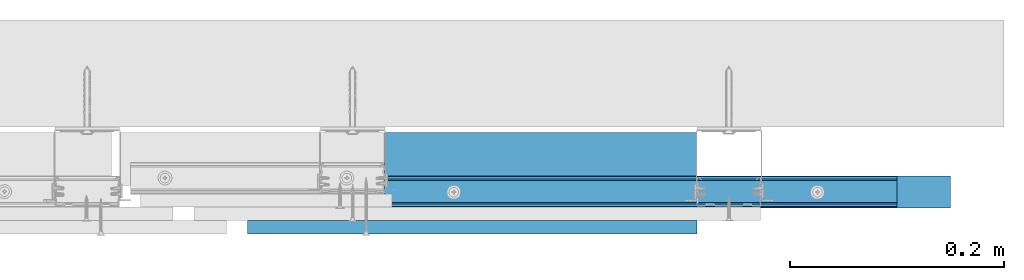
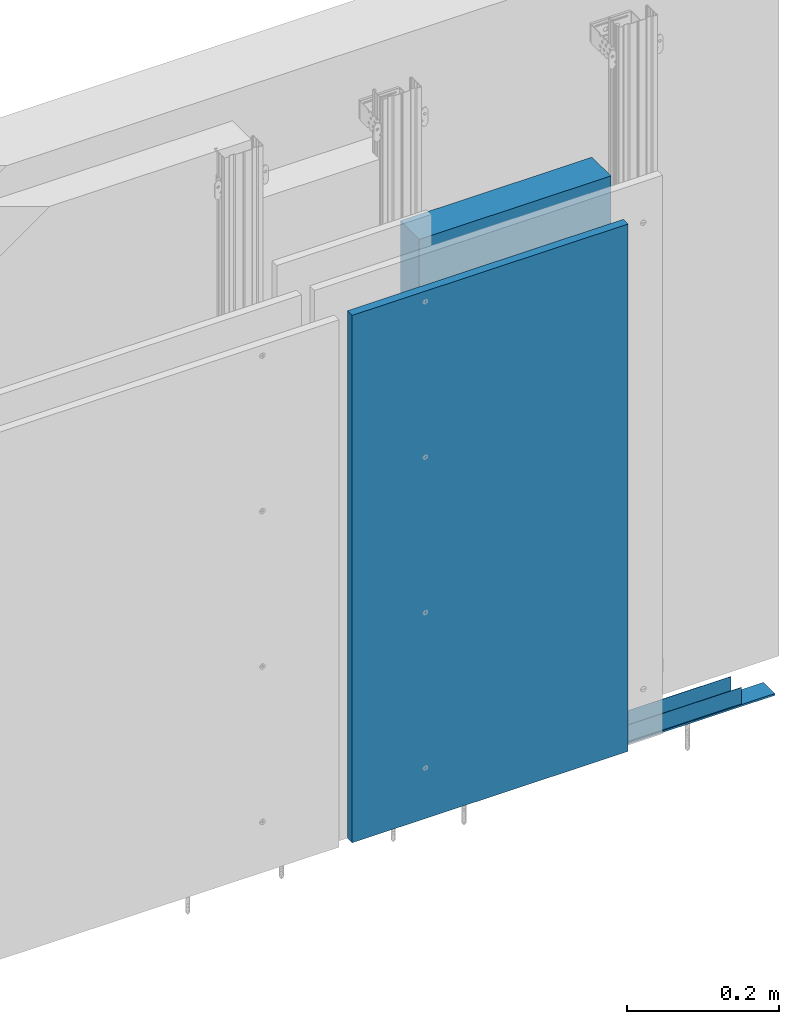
# One storey, part 5 of 48: 4 walls.
"""IFC2X3 building model written with IfcOpenShell, lengths in millimetres."""

from ifc_helpers import new_model, entity, si_unit, converted_unit, direction, frame, origin, origin_with_axes, place, context, project, spatial, faceted_brep, element, save


model = new_model("IFC2X3")

# Units and contexts
model_context = context("Model", 3, precision=1e-05, world=origin(), true_north=direction((0.0, 1.0, 0.0)))
ifc_project = project(units=[si_unit("LENGTHUNIT", "METRE", prefix="MILLI"), si_unit("AREAUNIT", "SQUARE_METRE"), si_unit("VOLUMEUNIT", "CUBIC_METRE"), converted_unit("PLANEANGLEUNIT", "DEGREE", entity("IfcPlaneAngleMeasure", 0.01745), si_unit("PLANEANGLEUNIT", "RADIAN"), dimensions=[0, 0, 0, 0, 0, 0, 0]), si_unit("SOLIDANGLEUNIT", "STERADIAN"), si_unit("MASSUNIT", "GRAM"), si_unit("TIMEUNIT", "SECOND"), si_unit("THERMODYNAMICTEMPERATUREUNIT", "DEGREE_CELSIUS"), si_unit("LUMINOUSINTENSITYUNIT", "LUMEN")], contexts=[model_context])

# Site, building, storey
site_placement = place(None, origin_with_axes())
site = spatial("IfcSite", under=ifc_project, at=site_placement, Name="Default Site", CompositionType="ELEMENT")
building_placement = place(site_placement, origin_with_axes())
building = spatial("IfcBuilding", under=site, at=building_placement, Name="Default Building", CompositionType="ELEMENT")
storey_placement = place(building_placement, origin_with_axes())
storey = spatial("IfcBuildingStorey", under=building, at=storey_placement, Name="Default Building Storey", CompositionType="ELEMENT", Elevation=0.0)

# Walls
wall_1_placement = place(storey_placement, frame((3245.742988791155, 5345.424146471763, 8.382447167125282), z_axis=(0.0, 0.0, 1.0), x_axis=(-1.0, 4.718447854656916e-16, 0.0)))
element("IfcWall", 1, at=wall_1_placement, inside=storey, Name="Wełna mineralna szklana lub skalna ISOVER", context=model_context, shape_type="Brep", body=[
    faceted_brep([(-210.1090366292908, 3378.123774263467, 900.0079488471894), (81.71848866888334, 3378.123774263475, 900.0079488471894), (81.71848866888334, 3378.123774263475, 2.350000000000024), (-210.1090366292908, 3378.123774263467, 2.350000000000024), (-210.1090366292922, 3328.283223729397, 900.0079488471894), (-210.1090366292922, 3328.283223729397, 2.350000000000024), (81.71848866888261, 3328.2832237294, 2.350000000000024), (81.71848866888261, 3328.2832237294, 900.0079488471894)], [[[0, 1, 2, 3]], [[4, 0, 3, 5]], [[2, 6, 5, 3]], [[4, 7, 1, 0]], [[5, 6, 7, 4]], [[1, 7, 6, 2]]]),
])
wall_2_placement = place(storey_placement, frame((3813.221819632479, 1934.666056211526, 1059.999999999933), z_axis=(0.0, 0.0, 1.0), x_axis=(-1.0, 6.389333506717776e-13, 0.0)))
element("IfcWall", 2, at=wall_2_placement, inside=storey, Name="Płyta gipsowo-kartonowa RIGIPS PRO (4PRO™)", context=model_context, shape_type="Brep", body=[
    faceted_brep([(357.3630227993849, -4.104066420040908e-10, -201.6096039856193), (357.3630227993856, 12.49999999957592, -201.6096039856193), (357.3630227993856, 12.4999999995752, -1050.001581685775), (357.3630227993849, -4.111285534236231e-10, -1050.001581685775), (777.2895112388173, 12.49999999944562, -201.6096039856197), (777.2895112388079, -5.26634380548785e-10, -201.6096039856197), (777.289511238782, -5.24107690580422e-10, -1050.001581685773), (777.2895112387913, 12.49999999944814, -1050.001581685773)], [[[0, 1, 2, 3]], [[4, 5, 6, 7]], [[4, 1, 0, 5]], [[7, 2, 1, 4]], [[0, 3, 6, 5]], [[6, 3, 2, 7]]]),
])
wall_3_placement = place(storey_placement, frame((6723.391136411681, 3445.732088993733, -108.5920209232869), z_axis=(-6.754789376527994e-14, -6.858158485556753e-13, 1.0), x_axis=(-1.0, -1.816065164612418e-15, -8.596431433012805e-14)))
element("IfcWall", 3, at=wall_3_placement, inside=storey, Name="Profil RIGIPS UD30 ULTRASTIL®", context=model_context, shape_type="Brep", body=[
    faceted_brep([(3559.3666362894, 1469.9160327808, 140.9750000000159), (3559.3666362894, 1469.3660327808, 140.9750000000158), (3559.366636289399, 1469.3660327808, 114.775000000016), (3559.366636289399, 1469.375882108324, 114.6498524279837), (3559.366636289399, 1469.405187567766, 114.5277864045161), (3559.366636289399, 1469.453227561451, 114.4118076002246), (3559.366636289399, 1469.5188191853, 114.3047717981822), (3559.366636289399, 1469.600347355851, 114.2093145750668), (3559.366636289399, 1469.695804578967, 114.1277864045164), (3559.366636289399, 1469.80284038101, 114.0621947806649), (3559.366636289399, 1469.918819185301, 114.0141547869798), (3559.366636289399, 1470.04088520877, 113.9848493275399), (3559.366636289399, 1470.166032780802, 113.9750000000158), (3559.366636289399, 1472.016032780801, 113.9750000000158), (3559.366636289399, 1472.163550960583, 113.9887186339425), (3559.366636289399, 1472.3060097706, 114.0294040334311), (3559.366636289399, 1472.438523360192, 114.0956608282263), (3559.366636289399, 1472.55654696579, 114.1852166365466), (3559.366636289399, 1472.6560327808, 114.2950000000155), (3559.3666362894, 1473.676032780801, 115.6550000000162), (3559.366636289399, 1473.77551859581, 115.7647833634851), (3559.366636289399, 1473.893542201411, 115.8543391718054), (3559.366636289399, 1474.026055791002, 115.9205959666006), (3559.366636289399, 1474.16851460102, 115.9612813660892), (3559.366636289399, 1474.316032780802, 115.9750000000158), (3559.3666362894, 1493.616032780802, 115.9750000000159), (3559.3666362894, 1493.763550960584, 115.9612813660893), (3559.3666362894, 1493.906009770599, 115.9205959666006), (3559.3666362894, 1494.038523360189, 115.8543391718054), (3559.3666362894, 1494.156546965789, 115.7647833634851), (3559.3666362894, 1494.256032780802, 115.6550000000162), (3559.366636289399, 1495.2760327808, 114.2950000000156), (3559.366636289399, 1495.375518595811, 114.1852166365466), (3559.366636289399, 1495.493542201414, 114.0956608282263), (3559.366636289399, 1495.626055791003, 114.0294040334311), (3559.366636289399, 1495.76851460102, 113.9887186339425), (3559.366636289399, 1495.916032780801, 113.9750000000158), (3559.366636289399, 1497.766032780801, 113.9750000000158), (3559.366636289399, 1497.891180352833, 113.9848493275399), (3559.366636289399, 1498.013246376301, 114.0141547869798), (3559.366636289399, 1498.129225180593, 114.0621947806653), (3559.366636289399, 1498.236260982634, 114.127786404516), (3559.366636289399, 1498.331718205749, 114.2093145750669), (3559.366636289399, 1498.4132463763, 114.3047717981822), (3559.366636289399, 1498.478838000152, 114.4118076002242), (3559.366636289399, 1498.526877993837, 114.5277864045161), (3559.366636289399, 1498.556183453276, 114.6498524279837), (3559.366636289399, 1498.5660327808, 114.775000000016), (3559.366636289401, 1498.5660327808, 140.9750000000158), (3559.366636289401, 1498.0160327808, 140.9750000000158), (3559.366636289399, 1498.0160327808, 114.775000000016), (3559.366636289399, 1498.012954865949, 114.7358913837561), (3559.366636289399, 1498.003796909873, 114.6977457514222), (3559.366636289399, 1497.988784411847, 114.661502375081), (3559.366636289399, 1497.968287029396, 114.6280536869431), (3559.366636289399, 1497.942809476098, 114.5982233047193), (3559.366636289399, 1497.912979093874, 114.5727457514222), (3559.366636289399, 1497.879530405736, 114.5522483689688), (3559.366636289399, 1497.843287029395, 114.5372358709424), (3559.366636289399, 1497.805141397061, 114.528077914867), (3559.366636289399, 1497.766032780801, 114.525000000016), (3559.366636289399, 1495.916032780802, 114.525000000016), (3559.366636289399, 1495.86993334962, 114.5292870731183), (3559.366636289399, 1495.825414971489, 114.5420012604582), (3559.366636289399, 1495.784004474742, 114.5627065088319), (3559.366636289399, 1495.747122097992, 114.5906926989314), (3559.366636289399, 1495.716032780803, 114.6250000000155), (3559.3666362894, 1494.696032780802, 115.9850000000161), (3559.3666362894, 1494.528150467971, 116.1702594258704), (3559.3666362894, 1494.32898563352, 116.3213848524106), (3559.3666362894, 1494.105368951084, 116.4331931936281), (3559.3666362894, 1493.864969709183, 116.5018498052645), (3559.3666362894, 1493.616032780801, 116.525000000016), (3559.366636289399, 1474.316032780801, 116.525000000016), (3559.366636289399, 1474.067095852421, 116.5018498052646), (3559.366636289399, 1473.826696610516, 116.4331931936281), (3559.366636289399, 1473.603079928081, 116.3213848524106), (3559.366636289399, 1473.403915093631, 116.1702594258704), (3559.366636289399, 1473.236032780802, 115.9850000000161), (3559.366636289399, 1472.216032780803, 114.6250000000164), (3559.366636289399, 1472.184943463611, 114.5906926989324), (3559.366636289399, 1472.14806108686, 114.562706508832), (3559.366636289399, 1472.106650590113, 114.5420012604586), (3559.366636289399, 1472.062132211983, 114.5292870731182), (3559.366636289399, 1472.016032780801, 114.525000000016), (3559.366636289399, 1470.166032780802, 114.525000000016), (3559.366636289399, 1470.126924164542, 114.528077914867), (3559.366636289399, 1470.088778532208, 114.5372358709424), (3559.366636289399, 1470.052535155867, 114.5522483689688), (3559.366636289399, 1470.019086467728, 114.5727457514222), (3559.366636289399, 1469.989256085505, 114.5982233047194), (3559.366636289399, 1469.963778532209, 114.628053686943), (3559.366636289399, 1469.943281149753, 114.661502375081), (3559.366636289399, 1469.928268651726, 114.6977457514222), (3559.366636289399, 1469.919110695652, 114.7358913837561), (3559.366636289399, 1469.9160327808, 114.775000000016), (3080.350518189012, 1469.366032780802, 114.7750000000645), (3080.350518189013, 1469.366032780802, 140.9750000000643), (3080.350518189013, 1469.916032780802, 140.9750000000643), (3080.350518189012, 1469.916032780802, 114.7750000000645), (3080.350518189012, 1469.919110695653, 114.7358913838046), (3080.350518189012, 1469.928268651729, 114.6977457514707), (3080.350518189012, 1469.943281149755, 114.6615023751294), (3080.350518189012, 1469.963778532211, 114.6280536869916), (3080.350518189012, 1469.989256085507, 114.5982233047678), (3080.350518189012, 1470.019086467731, 114.5727457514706), (3080.350518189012, 1470.052535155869, 114.5522483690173), (3080.350518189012, 1470.08877853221, 114.5372358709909), (3080.350518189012, 1470.126924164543, 114.5280779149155), (3080.350518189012, 1470.166032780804, 114.5250000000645), (3080.350518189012, 1472.016032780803, 114.5250000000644), (3080.350518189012, 1472.062132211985, 114.5292870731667), (3080.350518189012, 1472.106650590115, 114.5420012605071), (3080.350518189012, 1472.148061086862, 114.5627065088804), (3080.350518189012, 1472.184943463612, 114.5906926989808), (3080.350518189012, 1472.216032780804, 114.6250000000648), (3080.350518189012, 1473.236032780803, 115.9850000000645), (3080.350518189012, 1473.403915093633, 116.1702594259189), (3080.350518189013, 1473.603079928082, 116.321384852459), (3080.350518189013, 1473.826696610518, 116.4331931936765), (3080.350518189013, 1474.067095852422, 116.501849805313), (3080.350518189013, 1474.316032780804, 116.5250000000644), (3080.350518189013, 1493.616032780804, 116.5250000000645), (3080.350518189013, 1493.864969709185, 116.501849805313), (3080.350518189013, 1494.105368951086, 116.4331931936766), (3080.350518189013, 1494.328985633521, 116.321384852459), (3080.350518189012, 1494.528150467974, 116.1702594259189), (3080.350518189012, 1494.696032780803, 115.9850000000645), (3080.350518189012, 1495.716032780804, 114.625000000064), (3080.350518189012, 1495.747122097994, 114.5906926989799), (3080.350518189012, 1495.784004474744, 114.5627065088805), (3080.350518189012, 1495.825414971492, 114.5420012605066), (3080.350518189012, 1495.869933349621, 114.5292870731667), (3080.350518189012, 1495.916032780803, 114.5250000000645), (3080.350518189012, 1497.766032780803, 114.5250000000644), (3080.350518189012, 1497.805141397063, 114.5280779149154), (3080.350518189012, 1497.843287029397, 114.5372358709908), (3080.350518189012, 1497.879530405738, 114.5522483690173), (3080.350518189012, 1497.912979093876, 114.5727457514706), (3080.350518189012, 1497.9428094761, 114.5982233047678), (3080.350518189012, 1497.968287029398, 114.6280536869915), (3080.350518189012, 1497.988784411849, 114.6615023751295), (3080.350518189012, 1498.003796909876, 114.6977457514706), (3080.350518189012, 1498.01295486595, 114.7358913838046), (3080.350518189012, 1498.016032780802, 114.7750000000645), (3080.350518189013, 1498.016032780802, 140.9750000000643), (3080.350518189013, 1498.566032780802, 140.9750000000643), (3080.350518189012, 1498.566032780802, 114.7750000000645), (3080.350518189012, 1498.556183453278, 114.6498524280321), (3080.350518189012, 1498.526877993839, 114.5277864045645), (3080.350518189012, 1498.478838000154, 114.4118076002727), (3080.350518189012, 1498.413246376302, 114.3047717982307), (3080.350518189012, 1498.331718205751, 114.2093145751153), (3080.350518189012, 1498.236260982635, 114.1277864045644), (3080.350518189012, 1498.129225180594, 114.0621947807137), (3080.350518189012, 1498.013246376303, 114.0141547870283), (3080.350518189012, 1497.891180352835, 113.9848493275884), (3080.350518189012, 1497.766032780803, 113.9750000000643), (3080.350518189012, 1495.916032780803, 113.9750000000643), (3080.350518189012, 1495.768514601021, 113.9887186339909), (3080.350518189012, 1495.626055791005, 114.0294040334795), (3080.350518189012, 1495.493542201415, 114.0956608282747), (3080.350518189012, 1495.375518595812, 114.185216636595), (3080.350518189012, 1495.276032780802, 114.295000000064), (3080.350518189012, 1494.256032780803, 115.6550000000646), (3080.350518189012, 1494.156546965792, 115.7647833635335), (3080.350518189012, 1494.038523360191, 115.8543391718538), (3080.350518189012, 1493.9060097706, 115.9205959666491), (3080.350518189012, 1493.763550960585, 115.9612813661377), (3080.350518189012, 1493.616032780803, 115.9750000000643), (3080.350518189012, 1474.316032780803, 115.9750000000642), (3080.350518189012, 1474.168514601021, 115.9612813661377), (3080.350518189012, 1474.026055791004, 115.920595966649), (3080.350518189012, 1473.893542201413, 115.8543391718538), (3080.350518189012, 1473.775518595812, 115.7647833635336), (3080.350518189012, 1473.676032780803, 115.6550000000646), (3080.350518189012, 1472.656032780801, 114.295000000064), (3080.350518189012, 1472.556546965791, 114.185216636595), (3080.350518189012, 1472.438523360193, 114.0956608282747), (3080.350518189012, 1472.306009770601, 114.0294040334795), (3080.350518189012, 1472.163550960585, 113.9887186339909), (3080.350518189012, 1472.016032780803, 113.9750000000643), (3080.350518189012, 1470.166032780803, 113.9750000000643), (3080.350518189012, 1470.040885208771, 113.9848493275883), (3080.350518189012, 1469.918819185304, 114.0141547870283), (3080.350518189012, 1469.802840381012, 114.0621947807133), (3080.350518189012, 1469.695804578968, 114.1277864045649), (3080.350518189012, 1469.600347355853, 114.2093145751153), (3080.350518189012, 1469.518819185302, 114.3047717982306), (3080.350518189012, 1469.453227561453, 114.4118076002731), (3080.350518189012, 1469.405187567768, 114.5277864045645), (3080.350518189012, 1469.375882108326, 114.6498524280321)], [[[0, 1, 2, 3, 4, 5, 6, 7, 8, 9, 10, 11, 12, 13, 14, 15, 16, 17, 18, 19, 20, 21, 22, 23, 24, 25, 26, 27, 28, 29, 30, 31, 32, 33, 34, 35, 36, 37, 38, 39, 40, 41, 42, 43, 44, 45, 46, 47, 48, 49, 50, 51, 52, 53, 54, 55, 56, 57, 58, 59, 60, 61, 62, 63, 64, 65, 66, 67, 68, 69, 70, 71, 72, 73, 74, 75, 76, 77, 78, 79, 80, 81, 82, 83, 84, 85, 86, 87, 88, 89, 90, 91, 92, 93, 94, 95]], [[96, 97, 98, 99, 100, 101, 102, 103, 104, 105, 106, 107, 108, 109, 110, 111, 112, 113, 114, 115, 116, 117, 118, 119, 120, 121, 122, 123, 124, 125, 126, 127, 128, 129, 130, 131, 132, 133, 134, 135, 136, 137, 138, 139, 140, 141, 142, 143, 144, 145, 146, 147, 148, 149, 150, 151, 152, 153, 154, 155, 156, 157, 158, 159, 160, 161, 162, 163, 164, 165, 166, 167, 168, 169, 170, 171, 172, 173, 174, 175, 176, 177, 178, 179, 180, 181, 182, 183, 184, 185, 186, 187, 188, 189, 190, 191]], [[23, 171, 170, 24]], [[22, 172, 171, 23]], [[175, 174, 20, 19]], [[172, 22, 21, 173]], [[20, 174, 173, 21]], [[24, 170, 169, 25]], [[29, 165, 164, 30]], [[165, 29, 28, 166]], [[27, 167, 166, 28]], [[169, 168, 26, 25]], [[26, 168, 167, 27]], [[30, 164, 163, 31]], [[35, 159, 158, 36]], [[34, 160, 159, 35]], [[33, 32, 162, 161]], [[161, 160, 34, 33]], [[163, 162, 32, 31]], [[36, 158, 157, 37]], [[46, 45, 149, 148]], [[148, 147, 47, 46]], [[44, 150, 149, 45]], [[43, 42, 152, 151]], [[151, 150, 44, 43]], [[41, 40, 154, 153]], [[153, 152, 42, 41]], [[39, 155, 154, 40]], [[38, 37, 157, 156]], [[156, 155, 39, 38]], [[47, 147, 146, 48]], [[48, 146, 145, 49]], [[49, 145, 144, 50]], [[134, 60, 59, 135]], [[58, 136, 135, 59]], [[57, 137, 136, 58]], [[137, 57, 56, 138]], [[55, 139, 138, 56]], [[139, 55, 54, 140]], [[53, 141, 140, 54]], [[52, 142, 141, 53]], [[142, 52, 51, 143]], [[50, 144, 143, 51]], [[60, 134, 133, 61]], [[65, 129, 128, 66]], [[129, 65, 64, 130]], [[63, 131, 130, 64]], [[133, 132, 62, 61]], [[62, 132, 131, 63]], [[66, 128, 127, 67]], [[71, 123, 122, 72]], [[70, 69, 125, 124]], [[124, 123, 71, 70]], [[68, 126, 125, 69]], [[127, 126, 68, 67]], [[72, 122, 121, 73]], [[77, 117, 116, 78]], [[76, 118, 117, 77]], [[75, 74, 120, 119]], [[119, 118, 76, 75]], [[121, 120, 74, 73]], [[78, 116, 115, 79]], [[83, 111, 110, 84]], [[82, 112, 111, 83]], [[115, 114, 80, 79]], [[112, 82, 81, 113]], [[80, 114, 113, 81]], [[84, 110, 109, 85]], [[99, 95, 94, 100]], [[93, 101, 100, 94]], [[92, 102, 101, 93]], [[102, 92, 91, 103]], [[90, 104, 103, 91]], [[104, 90, 89, 105]], [[88, 106, 105, 89]], [[87, 107, 106, 88]], [[107, 87, 86, 108]], [[85, 109, 108, 86]], [[95, 99, 98, 0]], [[0, 98, 97, 1]], [[1, 97, 96, 2]], [[11, 10, 184, 183]], [[183, 182, 12, 11]], [[9, 185, 184, 10]], [[6, 5, 189, 188]], [[7, 6, 188, 187]], [[8, 7, 187, 186]], [[186, 185, 9, 8]], [[4, 190, 189, 5]], [[3, 2, 96, 191]], [[191, 190, 4, 3]], [[12, 182, 181, 13]], [[17, 177, 176, 18]], [[16, 15, 179, 178]], [[178, 177, 17, 16]], [[14, 180, 179, 15]], [[181, 180, 14, 13]], [[18, 176, 175, 19]]]),
])
wall_4_placement = place(storey_placement, frame((2863.999366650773, 1992.890922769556, 2.384025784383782), z_axis=(0.0, 0.0, 1.0), x_axis=(1.0, 0.0, 0.0)))
element("IfcWall", 4, at=wall_4_placement, inside=storey, Name="Taśma uszczelniająca piankowa RIGIPS", context=model_context, shape_type="Brep", body=[
    faceted_brep([(300.0251334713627, -46.50000002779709, 2.998418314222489), (829.0412515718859, -46.50000002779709, 2.998418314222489), (829.0412515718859, -16.52486655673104, 3.001783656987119), (300.0251334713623, -16.52486655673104, 3.001783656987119), (300.0251334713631, -46.50000002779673, -2.309905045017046e-12), (829.0412515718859, -46.50000002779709, -2.309905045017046e-12), (300.0251334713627, -16.52486655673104, 0.001783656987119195), (829.0412515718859, -16.52486655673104, 0.001783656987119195)], [[[0, 1, 2, 3]], [[1, 0, 4, 5]], [[5, 4, 6, 7]], [[3, 6, 4, 0]], [[7, 6, 3, 2]], [[2, 1, 5, 7]]]),
])

save(model, "model.ifc")
